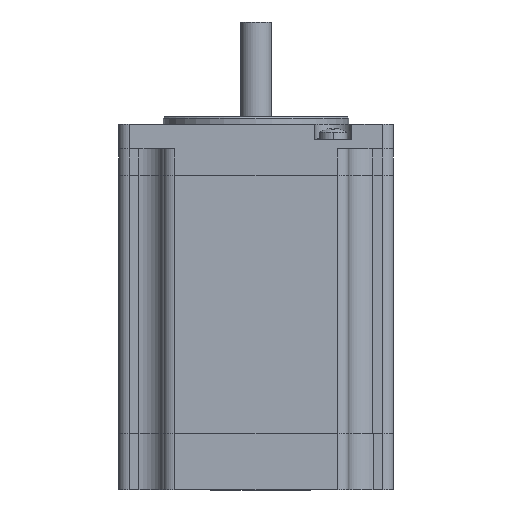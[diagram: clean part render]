
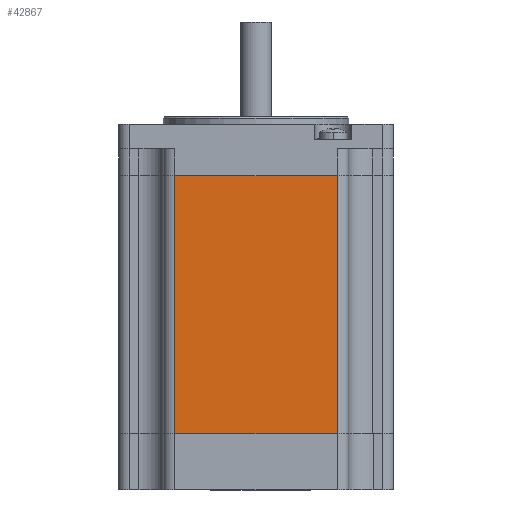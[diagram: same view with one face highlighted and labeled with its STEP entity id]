
A CAD part, front view. The second image highlights one B-rep face of the part: STEP entity #42867.
In plain terms, the highlighted planar face has unit normal (0, -1, 0).
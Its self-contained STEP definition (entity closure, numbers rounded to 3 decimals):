
#1420 = CARTESIAN_POINT ( 'NONE',  ( -16.7, -28.2, 0. ) ) ;
#1564 = LINE ( 'NONE', #41550, #26901 ) ;
#1582 = DIRECTION ( 'NONE',  ( 0., 0., -1. ) ) ;
#5064 = EDGE_LOOP ( 'NONE', ( #44638, #43517, #23278, #42629 ) ) ;
#6898 = VERTEX_POINT ( 'NONE', #17068 ) ;
#8009 = VECTOR ( 'NONE', #19475, 1000. ) ;
#10359 = VERTEX_POINT ( 'NONE', #12293 ) ;
#10836 = EDGE_CURVE ( 'NONE', #6898, #29735, #17775, .T. ) ;
#10841 = DIRECTION ( 'NONE',  ( 0., -1., 0. ) ) ;
#12245 = EDGE_CURVE ( 'NONE', #10359, #20745, #1564, .T. ) ;
#12293 = CARTESIAN_POINT ( 'NONE',  ( -16.7, -28.2, 53. ) ) ;
#13236 = EDGE_CURVE ( 'NONE', #10359, #6898, #19852, .T. ) ;
#14398 = VECTOR ( 'NONE', #1582, 1000. ) ;
#16385 = EDGE_CURVE ( 'NONE', #20745, #29735, #46633, .T. ) ;
#17068 = CARTESIAN_POINT ( 'NONE',  ( -16.7, -28.2, 0. ) ) ;
#17775 = LINE ( 'NONE', #22865, #8009 ) ;
#18246 = DIRECTION ( 'NONE',  ( 0., 0., -1. ) ) ;
#19475 = DIRECTION ( 'NONE',  ( 1., 0., 0. ) ) ;
#19519 = CARTESIAN_POINT ( 'NONE',  ( 16.7, -28.2, 0. ) ) ;
#19852 = LINE ( 'NONE', #1420, #14398 ) ;
#20745 = VERTEX_POINT ( 'NONE', #42500 ) ;
#20889 = CARTESIAN_POINT ( 'NONE',  ( 16.7, -28.2, 122.091 ) ) ;
#21478 = CARTESIAN_POINT ( 'NONE',  ( -19., -28.2, 0. ) ) ;
#22385 = DIRECTION ( 'NONE',  ( 1., 0., 0. ) ) ;
#22865 = CARTESIAN_POINT ( 'NONE',  ( 0., -28.2, 0. ) ) ;
#23278 = ORIENTED_EDGE ( 'NONE', *, *, #10836, .T. ) ;
#26901 = VECTOR ( 'NONE', #22385, 1000. ) ;
#29735 = VERTEX_POINT ( 'NONE', #19519 ) ;
#30487 = VECTOR ( 'NONE', #39750, 1000. ) ;
#30785 = FACE_OUTER_BOUND ( 'NONE', #5064, .T. ) ;
#32445 = AXIS2_PLACEMENT_3D ( 'NONE', #21478, #10841, #18246 ) ;
#39750 = DIRECTION ( 'NONE',  ( 0., 0., -1. ) ) ;
#41550 = CARTESIAN_POINT ( 'NONE',  ( 0., -28.2, 53. ) ) ;
#42500 = CARTESIAN_POINT ( 'NONE',  ( 16.7, -28.2, 53. ) ) ;
#42629 = ORIENTED_EDGE ( 'NONE', *, *, #16385, .F. ) ;
#42867 = ADVANCED_FACE ( 'NONE', ( #30785 ), #43867, .T. ) ;
#43517 = ORIENTED_EDGE ( 'NONE', *, *, #13236, .T. ) ;
#43867 = PLANE ( 'NONE',  #32445 ) ;
#44638 = ORIENTED_EDGE ( 'NONE', *, *, #12245, .F. ) ;
#46633 = LINE ( 'NONE', #20889, #30487 ) ;
